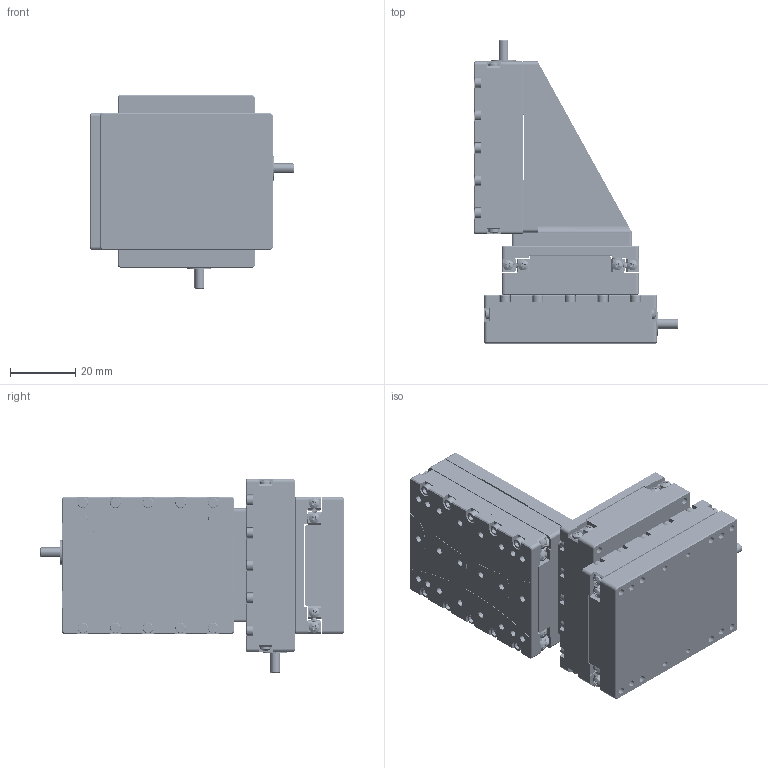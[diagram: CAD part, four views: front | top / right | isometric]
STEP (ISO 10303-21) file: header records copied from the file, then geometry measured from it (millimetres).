
FILE_DESCRIPTION (( 'STEP AP214' ), '1' );
FILE_NAME ('N56.XYZ30E-B1闭环三维直线压电马达3D图（25.05.06）.STEP', '2026-05-25T08:23:12', ( '微软用户' ), ( '微软中国' ), 'SwSTEP 2.0', 'SolidWorks 2016', '' );
FILE_SCHEMA (( 'AUTOMOTIVE_DESIGN' ));
Length unit declared in the file: millimetre
Products named in the file (1): N56.XYZ30E-B1闭环三维直线压电马达3D图（25.05.06）
Bounding box: 62.5 x 93 x 59.5 mm (x, y, z)
Volume: 87564.3 mm3; surface area: 71793.3 mm2
Topology: 178 solids, 178 shells, 4278 faces, 10722 edges, 6981 vertices
Faces by surface type: plane 2060, cylinder 1840, cone 240, bspline 138
Entity records: 179887 total; most frequent: CARTESIAN_POINT 26482, DIRECTION 22272, ORIENTED_EDGE 21144, EDGE_CURVE 10572, AXIS2_PLACEMENT_3D 8299, VERTEX_POINT 6981, VECTOR 5674, LINE 5674
